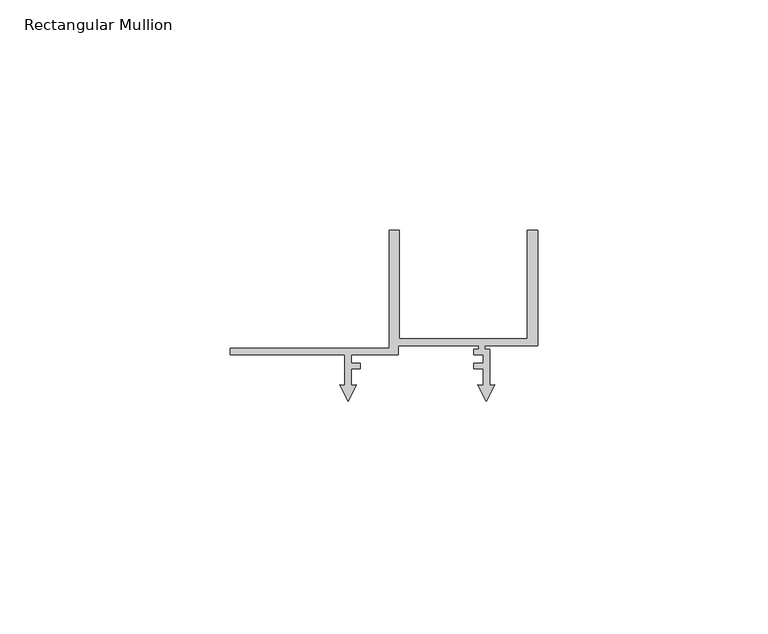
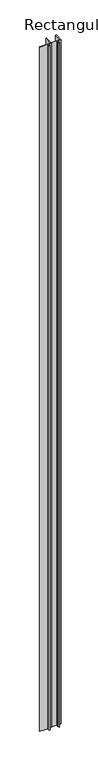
"""IFC4 building model written with IfcOpenShell, lengths in millimetres: member geometry, Rectangular Mullion : Renson_Linarte_LA-E25-01."""

from ifc_helpers import new_model, si_unit, frame, origin, place, context, project, spatial, polyline, outline, extrude, source, transform, mapped, element, save


def rectangular_mullion_67e5a697(model_context):
    return source(origin(), model_context, "Body", "SweptSolid", [
        extrude(outline(polyline([(-66.6, 80.6000494), (-32.2, 80.6000494), (-32.2, 106.1000494), (-30.0, 106.1000494), (-30.0, 82.6000494), (-2.2, 82.6000494), (-2.2, 106.1000494), (0.0, 106.1000494), (0.0, 81.1000494), (-11.4, 81.1000494), (-11.4, 80.3015754), (-10.3999985, 80.3015754), (-10.3999985, 72.5038712), (-9.284262, 72.6014855), (-11.0999986, 69.037898), (-12.9157351, 72.6014855), (-11.7999987, 72.5038712), (-11.7999987, 76.0979618), (-13.7875618, 76.0979618), (-13.7875618, 77.3000494), (-11.8091794, 77.3000494), (-11.8091794, 79.1000494), (-13.7880766, 79.1000494), (-13.7880766, 80.3015754), (-12.8, 80.3015754), (-12.8, 81.1000494), (-30.1732051, 81.1000494), (-30.1732051, 79.1000494), (-40.3999995, 79.1000494), (-40.3999995, 77.3000494), (-38.4077357, 77.3000494), (-38.4077357, 76.099221), (-40.3999998, 76.099221), (-40.3999998, 72.5071867), (-39.2744672, 72.6056581), (-41.0999986, 69.0228474), (-42.9255299, 72.6056578), (-41.8, 72.5071867), (-41.8, 79.1000494), (-66.6, 79.1000494), (-66.6, 80.6000494)])), frame((0.0, 0.0, -2225.0), z_axis=(0.0, 0.0, 1.0), x_axis=(1.0, 0.0, 0.0)), (0.0, 0.0, 1.0), 2225.0),
    ])


if __name__ == "__main__":
    model = new_model("IFC4")
    model_context = context("Model", 3, world=origin())
    ifc_project = project(units=[si_unit("LENGTHUNIT", "METRE", prefix="MILLI")], contexts=[model_context])
    site = spatial("IfcSite", under=ifc_project)
    building = spatial("IfcBuilding", under=site)
    placement = place(None, origin())
    rectangular_mullion_shape = rectangular_mullion_67e5a697(model_context)
    element("IfcMember", 1, ObjectType="Rectangular Mullion : Renson_Linarte_LA-E25-01", at=placement, inside=building, context=model_context, shape_type="MappedRepresentation", body=[
        mapped(rectangular_mullion_shape, transform((0.0, 0.0, 0.0), x_axis=(1.0, 0.0, 0.0), y_axis=(0.0, 1.0, 0.0), z_axis=(0.0, 0.0, 1.0))),
    ])
    save(model, "model.ifc")
